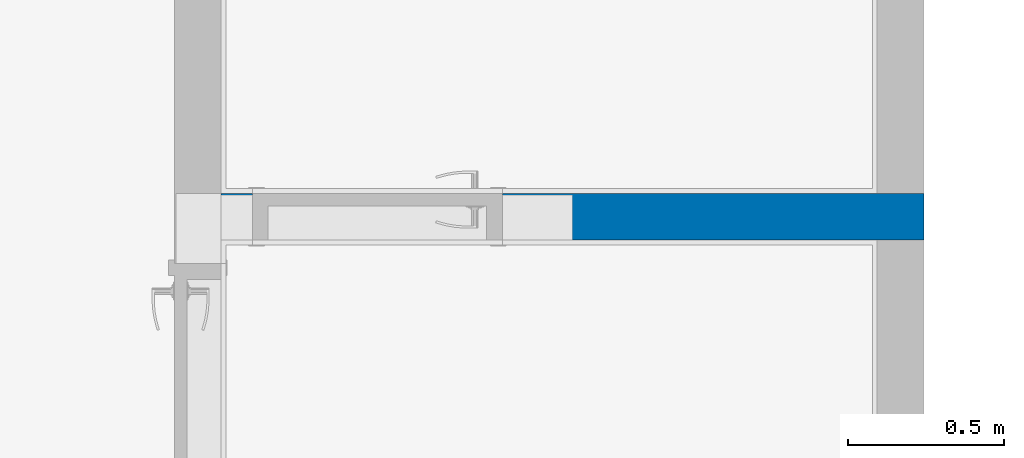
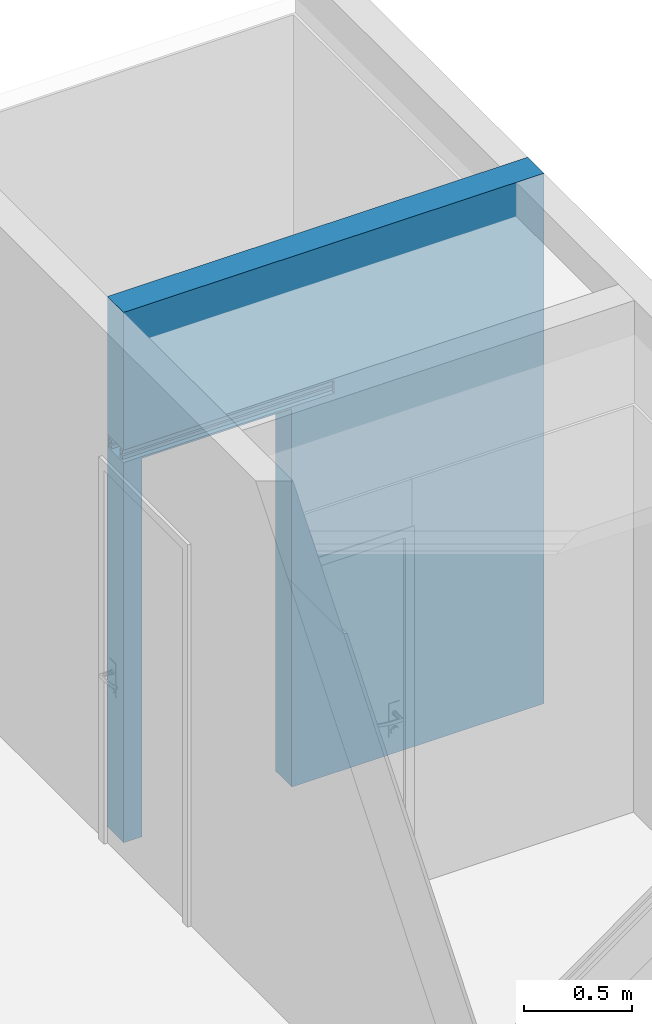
# One storey, part 17 of 17: 1 wall, 1 opening.
"""IFC4 building model written with IfcOpenShell, lengths in millimetres."""

from ifc_helpers import new_model, entity, si_unit, converted_unit, derived_unit, direction, frame, origin_with_axes, place, context, subcontext, project, spatial, polygons, material, constituent, constituent_set, type_object, element, save


model = new_model("IFC4")

# Units and contexts
model_context = context("Model", 3, precision=0.01, world=origin_with_axes(), true_north=direction((0.0, 1.0)))
body_context = subcontext(model_context, "Body", "Model", "MODEL_VIEW")
ifc_project = project(units=[si_unit("LENGTHUNIT", "METRE", prefix="MILLI"), si_unit("AREAUNIT", "SQUARE_METRE"), si_unit("VOLUMEUNIT", "CUBIC_METRE"), converted_unit("PLANEANGLEUNIT", "DEGREE", entity("IfcPlaneAngleMeasure", 0.0174532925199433), si_unit("PLANEANGLEUNIT", "RADIAN"), dimensions=[0, 0, 0, 0, 0, 0, 0]), converted_unit("TIMEUNIT", "Year", entity("IfcTimeMeasure", 31557600.0), si_unit("TIMEUNIT", "SECOND"), dimensions=[0, 0, 1, 0, 0, 0, 0]), si_unit("MASSUNIT", "GRAM", prefix="KILO"), si_unit("THERMODYNAMICTEMPERATUREUNIT", "DEGREE_CELSIUS"), si_unit("LUMINOUSINTENSITYUNIT", "LUMEN"), si_unit("ENERGYUNIT", "JOULE", prefix="MEGA"), derived_unit("THERMALCONDUCTANCEUNIT", [(si_unit("POWERUNIT", "WATT"), 1), (si_unit("LENGTHUNIT", "METRE"), -1), (si_unit("THERMODYNAMICTEMPERATUREUNIT", "KELVIN"), -1)]), derived_unit("SPECIFICHEATCAPACITYUNIT", [(si_unit("ENERGYUNIT", "JOULE"), 1), (si_unit("MASSUNIT", "GRAM", prefix="KILO"), -1), (si_unit("THERMODYNAMICTEMPERATUREUNIT", "KELVIN"), -1)]), derived_unit("MASSDENSITYUNIT", [(si_unit("MASSUNIT", "GRAM", prefix="KILO"), 1), (si_unit("VOLUMEUNIT", "CUBIC_METRE"), -1)])], contexts=[model_context])

# Site, building, storey
site_placement = place(None, origin_with_axes())
site = spatial("IfcSite", under=ifc_project, at=site_placement, Name="Exteriér", CompositionType="ELEMENT")
building_placement = place(site_placement, origin_with_axes())
building = spatial("IfcBuilding", under=site, at=building_placement, Name="Univerzitní lezecké centrum", CompositionType="ELEMENT")
storey_placement = place(building_placement, frame((0.0, 0.0, 3200.0), z_axis=(0.0, 0.0, 1.0), x_axis=(1.0, 0.0, 0.0)))
storey = spatial("IfcBuildingStorey", under=building, at=storey_placement, Name="2.NP", CompositionType="ELEMENT", Elevation=3200.0)

# Wall, opening
ifc_material = material(Name="Keramické tvárnice nenosné tl. 150 mm")
ifc_constituent = constituent(ifc_material, Name="Keramické tvárnice nenosné tl. 150 mm")
ifc_constituent_set = constituent_set(constituents=[ifc_constituent], Name="!Vnitřní keramická stěna 150 mm - nenosná**")
wall_type = type_object("IfcWallType", Name="!Vnitřní keramická stěna 150 mm - nenosná** 150", PredefinedType="NOTDEFINED")
wall_placement = place(storey_placement, frame((10149.95979355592, 2349.999999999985, -120.000000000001), z_axis=(0.0, 0.0, 1.0), x_axis=(-1.0, 0.0, 0.0)))
wall = element("IfcWall", 1, at=wall_placement, inside=storey, type_object=wall_type, material=ifc_constituent_set, Name="St07**", PredefinedType="NOTDEFINED", context=body_context, shape_type="Tessellation", body=[
    polygons([(2149.912102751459, 0.0, 0.500000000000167), (2149.912102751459, -150.000000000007, 0.500000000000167), (2149.912102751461, -150.0000000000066, 120.000000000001), (2149.912102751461, 0.0, 120.000000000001), (2149.912102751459, -150.000000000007, 0.0), (2149.912102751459, 0.0, 0.0), (1349.912102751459, -150.0000000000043, 0.0), (1349.912102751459, -150.0000000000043, 0.500000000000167), (1349.91210275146, -150.0000000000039, 120.000000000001), (1349.91210275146, -150.0000000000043, 2140.000000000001), (2149.912102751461, -150.000000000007, 2140.000000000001), (2249.904729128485, -150.000000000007, 0.0), (2249.904729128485, -150.0000000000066, 3000.0), (0.0, -149.9999999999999, 3000.0), (0.0, -149.9999999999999, 0.0), (2149.912102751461, 0.0, 2140.000000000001), (1349.912102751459, 0.0, 0.500000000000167), (1349.912102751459, 0.0, 0.0), (0.0, 0.0, 0.0), (0.0, 0.0, 3000.0), (2249.904729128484, 0.0, 3000.0), (2249.904729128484, 0.0, 2221.0), (1124.912102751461, 0.0, 2221.0), (1124.912102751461, 0.0, 2150.000000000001), (2249.904729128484, 0.0, 2150.000000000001), (2249.904729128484, 0.0, 0.0), (1349.91210275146, 0.0, 2140.000000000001), (1349.91210275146, 0.0, 120.000000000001), (2249.904729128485, -144.2749987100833, 2221.0), (2249.904729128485, -144.2749987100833, 2150.000000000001), (1124.912102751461, -144.2749987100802, 2221.0), (1124.912102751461, -144.2749987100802, 2150.000000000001), (1124.912102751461, -11.44249999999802, 2180.499637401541), (1124.912102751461, -11.44249999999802, 2160.49963740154), (1124.912102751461, -33.33249999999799, 2160.49963740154), (1124.912102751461, -33.33249999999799, 2180.499637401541), (1124.912102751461, -11.44249999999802, 2210.500000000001), (1124.912102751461, -11.44249999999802, 2190.5), (1124.912102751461, -33.33249999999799, 2190.5), (1124.912102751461, -33.33249999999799, 2210.500000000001), (1124.912102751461, -110.9413637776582, 2160.49963740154), (1124.912102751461, -132.8313637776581, 2160.49963740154), (1124.912102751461, -132.8313637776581, 2180.499637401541), (1124.912102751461, -110.9413637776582, 2180.499637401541), (1124.912102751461, -132.8313637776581, 2210.500000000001), (1124.912102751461, -110.9413637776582, 2210.500000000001), (1124.912102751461, -110.9413637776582, 2190.5), (1124.912102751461, -132.8313637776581, 2190.5), (2249.904729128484, -11.44250000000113, 2180.499637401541), (2249.904729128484, -11.44250000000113, 2160.49963740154), (2249.904729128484, -33.33250000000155, 2160.49963740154), (2249.904729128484, -33.33250000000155, 2180.499637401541), (2249.904729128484, -11.44250000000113, 2210.500000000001), (2249.904729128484, -11.44250000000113, 2190.5), (2249.904729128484, -33.33250000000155, 2190.5), (2249.904729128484, -33.33250000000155, 2210.500000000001), (2249.904729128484, -110.9413637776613, 2160.49963740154), (2249.904729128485, -132.8313637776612, 2160.49963740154), (2249.904729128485, -132.8313637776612, 2180.499637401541), (2249.904729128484, -110.9413637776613, 2180.499637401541), (2249.904729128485, -132.8313637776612, 2210.500000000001), (2249.904729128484, -110.9413637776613, 2210.500000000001), (2249.904729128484, -110.9413637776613, 2190.5), (2249.904729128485, -132.8313637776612, 2190.5)], [[[1, 2, 3, 4]], [[5, 2, 1, 6]], [[7, 8, 9, 10, 11, 3, 2, 5, 12, 13, 14, 15]], [[16, 4, 3, 11]], [[17, 18, 19, 20, 21, 22, 23, 24, 25, 26, 6, 1, 4, 16, 27, 28]], [[5, 6, 26, 12]], [[17, 8, 7, 18]], [[8, 17, 28, 9]], [[28, 27, 10, 9]], [[27, 16, 11, 10]], [[29, 22, 21, 13, 12, 26, 25, 30]], [[14, 13, 21, 20]], [[14, 20, 19, 15]], [[18, 7, 15, 19]], [[23, 22, 29, 31]], [[23, 31, 32, 24], [33, 34, 35, 36], [37, 38, 39, 40], [41, 42, 43, 44], [45, 46, 47, 48]], [[30, 25, 24, 32]], [[31, 29, 30, 32]], [[33, 49, 50, 34]], [[34, 50, 51, 35]], [[35, 51, 52, 36]], [[36, 52, 49, 33]], [[37, 53, 54, 38]], [[38, 54, 55, 39]], [[39, 55, 56, 40]], [[40, 56, 53, 37]], [[41, 57, 58, 42]], [[42, 58, 59, 43]], [[43, 59, 60, 44]], [[44, 60, 57, 41]], [[45, 61, 62, 46]], [[46, 62, 63, 47]], [[47, 63, 64, 48]], [[48, 64, 61, 45]], [[51, 50, 49, 52]], [[55, 54, 53, 56]], [[58, 57, 60, 59]], [[64, 63, 62, 61]]], closed=True),
])
opening_placement = place(wall_placement, frame((1749.912102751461, 0.0, 120.000000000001), z_axis=(0.0, 0.0, 1.0), x_axis=(1.0, 0.0, 0.0)))
element("IfcOpeningElement", 2, at=opening_placement, cuts=wall, Name="D05", context=body_context, identifier="Reference", shape_type="Tessellation", body=[
    polygons([(400.0000000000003, -151.0000000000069, 2020.0), (-400.0000000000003, -151.0000000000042, 2020.0), (-400.0000000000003, -151.0000000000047, 0.0), (400.0000000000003, -151.0000000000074, 0.0), (411.9999999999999, -151.0000000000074, 0.0), (411.9999999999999, -151.0000000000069, 2032.0), (-412.0000000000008, -151.0000000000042, 2032.0), (-412.0000000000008, -151.0000000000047, 0.0), (400.0000000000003, -150.0000000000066, 0.0), (-400.0000000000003, -150.0000000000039, 0.0), (-400.0000000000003, 0.0, 0.0), (-400.0000000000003, 1.000000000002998, 0.0), (400.0000000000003, 1.000000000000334, 0.0), (400.0000000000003, 0.0, 0.0), (411.9999999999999, -150.0000000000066, 0.0), (411.9999999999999, -150.0000000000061, 2032.0), (-412.0000000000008, -150.0000000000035, 2032.0), (-412.0000000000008, -150.0000000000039, 0.0), (-400.0000000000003, -150.0000000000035, 2020.0), (-400.0000000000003, 0.0, 2020.0), (-412.0000000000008, 0.0, 0.0), (-412.0000000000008, 1.000000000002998, 0.0), (-412.0000000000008, 1.000000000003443, 2032.0), (411.9999999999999, 1.000000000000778, 2032.0), (411.9999999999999, 1.000000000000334, 0.0), (411.9999999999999, 0.0, 0.0), (400.0000000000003, -150.0000000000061, 2020.0), (400.0000000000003, 0.0, 2020.0), (411.9999999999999, 0.0, 2032.0), (-412.0000000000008, 0.0, 2032.0)], [[[1, 2, 3, 4]], [[3, 2, 1, 4, 5, 6, 7, 8]], [[9, 4, 3, 10, 11, 12, 13, 14]], [[4, 9, 15, 5]], [[15, 16, 6, 5]], [[16, 17, 7, 6]], [[17, 18, 8, 7]], [[10, 3, 8, 18]], [[10, 19, 20, 11]], [[12, 11, 21, 22]], [[13, 12, 22, 23, 24, 25]], [[14, 13, 25, 26]], [[27, 9, 14, 28]], [[27, 19, 10, 18, 17, 16, 15, 9]], [[19, 27, 28, 20]], [[11, 20, 28, 14, 26, 29, 30, 21]], [[21, 30, 23, 22]], [[30, 29, 24, 23]], [[29, 26, 25, 24]]], closed=True),
])

save(model, "model.ifc")
